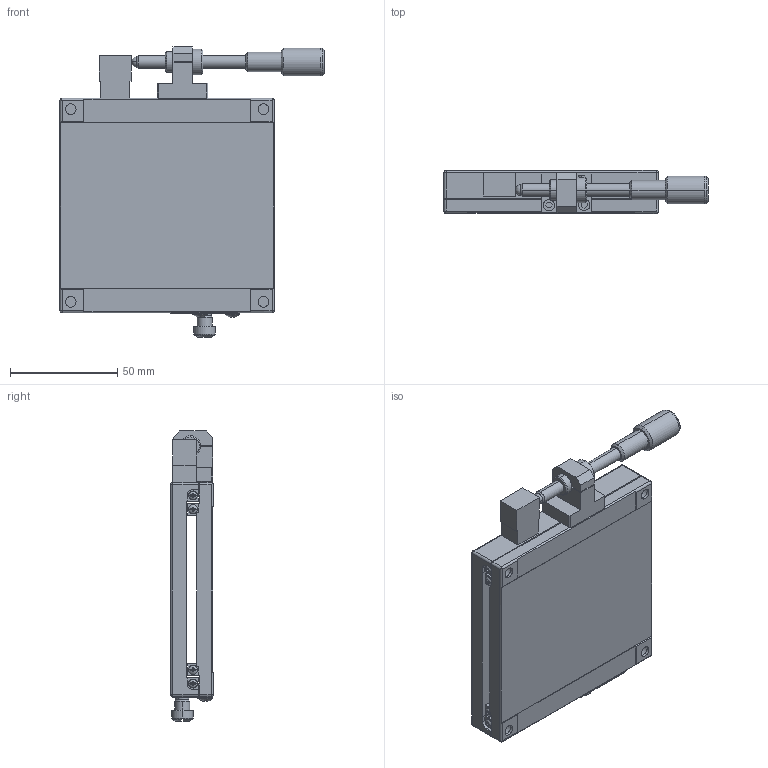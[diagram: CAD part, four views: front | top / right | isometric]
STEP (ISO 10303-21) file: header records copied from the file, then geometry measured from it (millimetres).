
FILE_DESCRIPTION (( 'STEP AP203' ), '1' );
FILE_NAME ('MX100-SS-28(«¬¿ý).STEP', '2015-07-13T02:58:27', ( '' ), ( '' ), 'SwSTEP 2.0', 'SolidWorks 2015', '' );
FILE_SCHEMA (( 'CONFIG_CONTROL_DESIGN' ));
Length unit declared in the file: millimetre
Products named in the file (3): Group1^MX100-SS-28(模糊化); Group2^MX100-SS-28(模糊化); MX100-SS-28(型錄)
Assembly tree (2 placements, depth 2):
  MX100-SS-28(型錄)
    Group1^MX100-SS-28(模糊化)
    Group2^MX100-SS-28(模糊化)
Bounding box: 123.25 x 20 x 135.4 mm (x, y, z)
Volume: 174010.1 mm3; surface area: 60999.8 mm2
Topology: 15 solids, 15 shells, 1228 faces, 3208 edges, 2064 vertices
Faces by surface type: plane 713, cylinder 210, bspline 161, cone 92, sphere 28, torus 24
Entity records: 46071 total; most frequent: CARTESIAN_POINT 16292, ORIENTED_EDGE 6348, DIRECTION 5716, EDGE_CURVE 3174, VERTEX_POINT 2064, LINE 1920, VECTOR 1920, AXIS2_PLACEMENT_3D 1898
